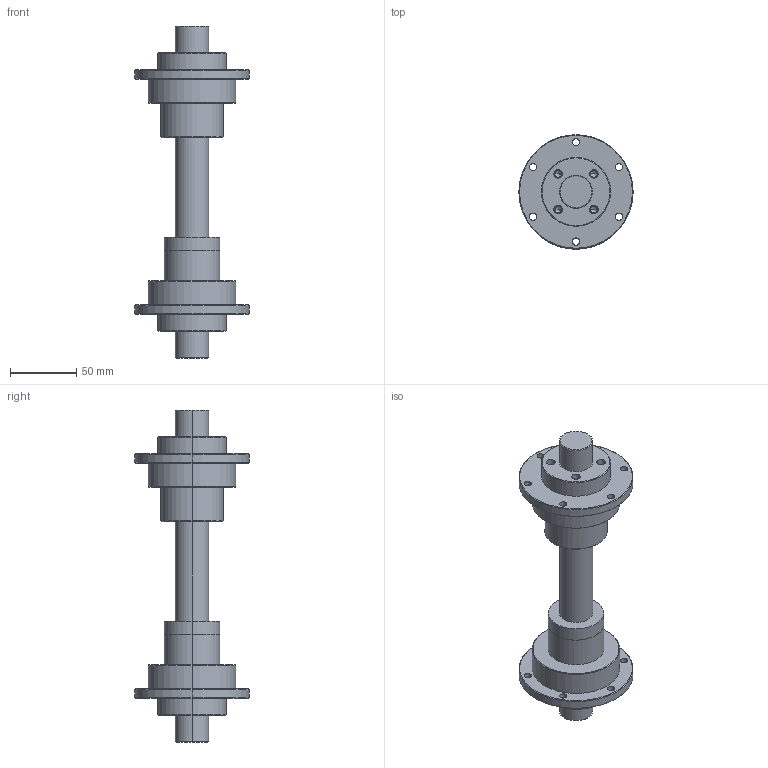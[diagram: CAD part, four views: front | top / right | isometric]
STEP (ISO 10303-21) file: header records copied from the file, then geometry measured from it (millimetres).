
FILE_DESCRIPTION (( 'STEP AP203' ), '1' );
FILE_NAME ('RSSY2525.STEP', '2014-11-13T05:22:23', ( '' ), ( '' ), 'SwSTEP 2.0', 'SolidWorks 2014', '' );
FILE_SCHEMA (( 'CONFIG_CONTROL_DESIGN' ));
Length unit declared in the file: millimetre
Products named in the file (4): RFSY2525; RLSF25; RSSY2525; SC25
Assembly tree (3 placements, depth 2):
  RSSY2525
    SC25
    RFSY2525
    RLSF25
Bounding box: 86 x 86 x 250 mm (x, y, z)
Volume: 400442.8 mm3; surface area: 83125.9 mm2
Topology: 4 solids, 4 shells, 177 faces, 426 edges, 260 vertices
Faces by surface type: cylinder 112, cone 44, plane 21
Entity records: 5566 total; most frequent: DIRECTION 1022, CARTESIAN_POINT 849, ORIENTED_EDGE 812, AXIS2_PLACEMENT_3D 433, EDGE_CURVE 406, VERTEX_POINT 260, CIRCLE 250, EDGE_LOOP 230
